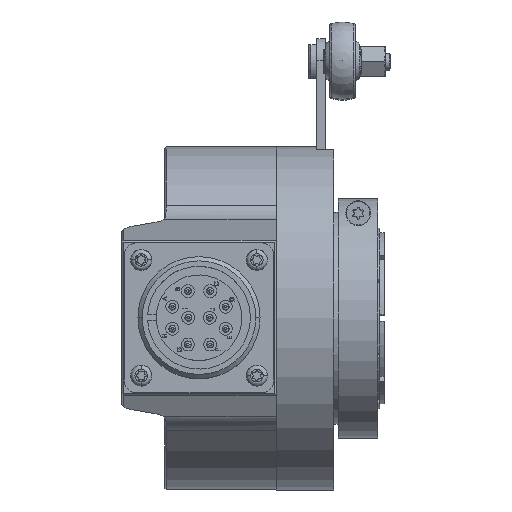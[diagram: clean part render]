
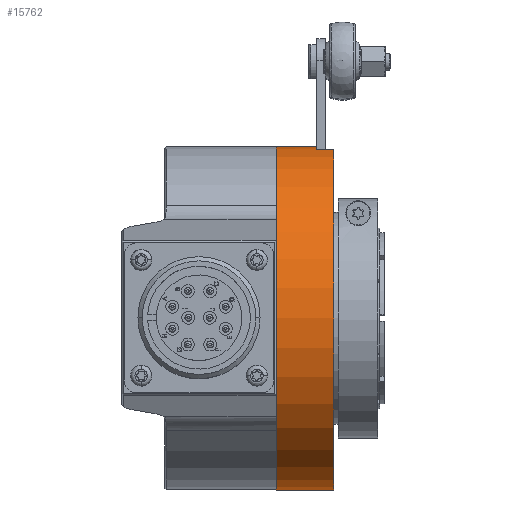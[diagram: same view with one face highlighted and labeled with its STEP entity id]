
A CAD part, top view. The second image highlights one B-rep face of the part: STEP entity #15762.
In plain terms, the highlighted cylindrical face has radius 40.075 mm (diameter 80.15 mm), a partial arc.
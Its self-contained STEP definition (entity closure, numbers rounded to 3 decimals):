
#232 = CARTESIAN_POINT ( 'NONE',  ( 0., -40.075, 0. ) ) ;
#553 = CARTESIAN_POINT ( 'NONE',  ( 9.5, 0., 0. ) ) ;
#731 = AXIS2_PLACEMENT_3D ( 'NONE', #18841, #24185, #10867 ) ;
#1364 = VERTEX_POINT ( 'NONE', #1603 ) ;
#1404 = CARTESIAN_POINT ( 'NONE',  ( 9.5, 39.468, 6.95 ) ) ;
#1603 = CARTESIAN_POINT ( 'NONE',  ( 13.5, 39.468, 6.95 ) ) ;
#2076 = AXIS2_PLACEMENT_3D ( 'NONE', #30063, #3060, #29360 ) ;
#2481 = DIRECTION ( 'NONE',  ( -1., 0., 0. ) ) ;
#2546 = EDGE_CURVE ( 'NONE', #28662, #12983, #4249, .T. ) ;
#3060 = DIRECTION ( 'NONE',  ( -1., 0., 0. ) ) ;
#4249 = LINE ( 'NONE', #22931, #23695 ) ;
#4418 = DIRECTION ( 'NONE',  ( -1., 0., 0. ) ) ;
#6906 = DIRECTION ( 'NONE',  ( -1., 0., 0. ) ) ;
#8698 = ORIENTED_EDGE ( 'NONE', *, *, #32456, .T. ) ;
#8785 = CYLINDRICAL_SURFACE ( 'NONE', #2076, 40.075 ) ;
#9154 = VECTOR ( 'NONE', #2481, 1000. ) ;
#10252 = CIRCLE ( 'NONE', #18000, 40.075 ) ;
#10867 = DIRECTION ( 'NONE',  ( 0., 1., 0. ) ) ;
#11122 = DIRECTION ( 'NONE',  ( 0., 1., 0. ) ) ;
#11922 = LINE ( 'NONE', #27831, #13516 ) ;
#12849 = EDGE_CURVE ( 'NONE', #29490, #21416, #33994, .T. ) ;
#12978 = EDGE_CURVE ( 'NONE', #28662, #1364, #10252, .T. ) ;
#12983 = VERTEX_POINT ( 'NONE', #232 ) ;
#13516 = VECTOR ( 'NONE', #6906, 1000. ) ;
#14142 = CARTESIAN_POINT ( 'NONE',  ( 13.5, -40.075, 0. ) ) ;
#15762 = ADVANCED_FACE ( 'NONE', ( #29538 ), #8785, .T. ) ;
#16200 = CIRCLE ( 'NONE', #731, 40.075 ) ;
#16680 = CARTESIAN_POINT ( 'NONE',  ( 13.5, 0., 0. ) ) ;
#18000 = AXIS2_PLACEMENT_3D ( 'NONE', #16680, #21162, #11122 ) ;
#18841 = CARTESIAN_POINT ( 'NONE',  ( 0., 0., 0. ) ) ;
#19360 = CIRCLE ( 'NONE', #32624, 40.075 ) ;
#19560 = EDGE_CURVE ( 'NONE', #33973, #29490, #19360, .T. ) ;
#19592 = DIRECTION ( 'NONE',  ( -1., 0., 0. ) ) ;
#20693 = ORIENTED_EDGE ( 'NONE', *, *, #30163, .F. ) ;
#21162 = DIRECTION ( 'NONE',  ( -1., 0., 0. ) ) ;
#21416 = VERTEX_POINT ( 'NONE', #31823 ) ;
#22169 = DIRECTION ( 'NONE',  ( 0., 1., 0. ) ) ;
#22440 = ORIENTED_EDGE ( 'NONE', *, *, #19560, .T. ) ;
#22931 = CARTESIAN_POINT ( 'NONE',  ( -12.775, -40.075, 0. ) ) ;
#23695 = VECTOR ( 'NONE', #4418, 1000. ) ;
#24185 = DIRECTION ( 'NONE',  ( -1., 0., 0. ) ) ;
#25185 = EDGE_LOOP ( 'NONE', ( #27446, #28761, #8698, #22440, #27460, #20693 ) ) ;
#26364 = CARTESIAN_POINT ( 'NONE',  ( -12.775, 40.075, 0. ) ) ;
#27446 = ORIENTED_EDGE ( 'NONE', *, *, #2546, .F. ) ;
#27460 = ORIENTED_EDGE ( 'NONE', *, *, #12849, .T. ) ;
#27831 = CARTESIAN_POINT ( 'NONE',  ( -12.775, 39.468, 6.95 ) ) ;
#28662 = VERTEX_POINT ( 'NONE', #14142 ) ;
#28761 = ORIENTED_EDGE ( 'NONE', *, *, #12978, .T. ) ;
#29360 = DIRECTION ( 'NONE',  ( 0., 1., 0. ) ) ;
#29490 = VERTEX_POINT ( 'NONE', #30491 ) ;
#29538 = FACE_OUTER_BOUND ( 'NONE', #25185, .T. ) ;
#30063 = CARTESIAN_POINT ( 'NONE',  ( -12.775, 0., 0. ) ) ;
#30163 = EDGE_CURVE ( 'NONE', #12983, #21416, #16200, .T. ) ;
#30491 = CARTESIAN_POINT ( 'NONE',  ( 9.5, 40.075, 0. ) ) ;
#31823 = CARTESIAN_POINT ( 'NONE',  ( 0., 40.075, 0. ) ) ;
#32456 = EDGE_CURVE ( 'NONE', #1364, #33973, #11922, .T. ) ;
#32624 = AXIS2_PLACEMENT_3D ( 'NONE', #553, #19592, #22169 ) ;
#33973 = VERTEX_POINT ( 'NONE', #1404 ) ;
#33994 = LINE ( 'NONE', #26364, #9154 ) ;
